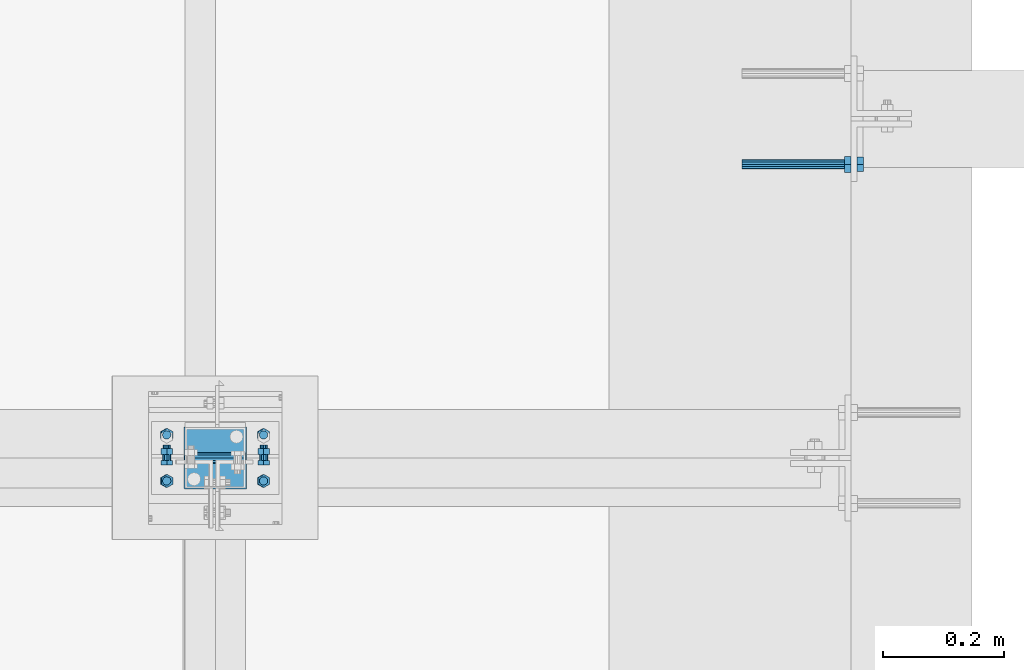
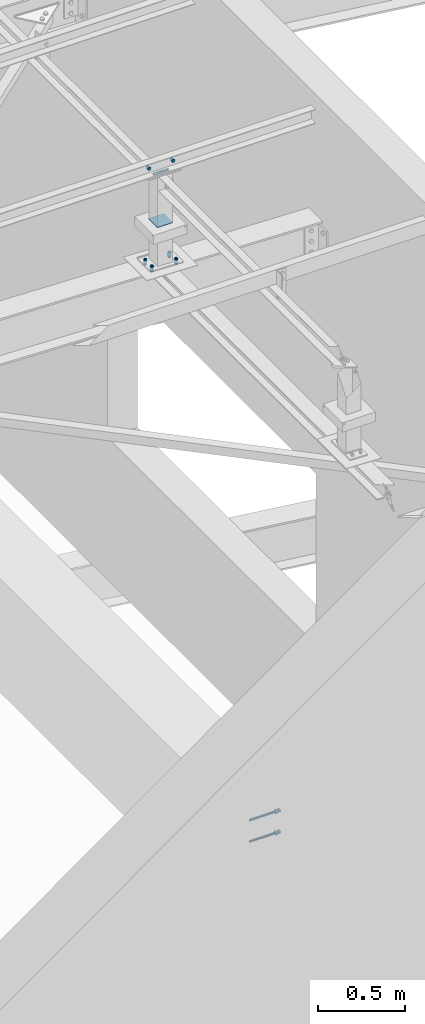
# One storey, part 268 of 3134: 6 mechanical fasteners, 5 elements without a shape of their own.
"""IFC2X3 building model written with IfcOpenShell, lengths in millimetres."""

from ifc_helpers import new_model, si_unit, frame, origin_with_axes, place, context, subcontext, project, spatial, faceted_brep, source, transform, mapped, material, type_object, element, aggregate, save


model = new_model("IFC2X3")

# Units and contexts
model_context = context("Model", 3, precision=1e-05, world=origin_with_axes())
body_context = subcontext(model_context, "Body", "Model", "MODEL_VIEW")
ifc_project = project(units=[si_unit("LENGTHUNIT", "METRE", prefix="MILLI"), si_unit("AREAUNIT", "SQUARE_METRE"), si_unit("VOLUMEUNIT", "CUBIC_METRE"), si_unit("MASSUNIT", "GRAM", prefix="KILO"), si_unit("TIMEUNIT", "SECOND"), si_unit("PLANEANGLEUNIT", "RADIAN"), si_unit("SOLIDANGLEUNIT", "STERADIAN"), si_unit("THERMODYNAMICTEMPERATUREUNIT", "DEGREE_CELSIUS"), si_unit("LUMINOUSINTENSITYUNIT", "LUMEN")], contexts=[model_context])

# Site, building, storey
site_placement = place(None, origin_with_axes())
site = spatial("IfcSite", under=ifc_project, at=site_placement, CompositionType="ELEMENT")
building_placement = place(site_placement, origin_with_axes())
building = spatial("IfcBuilding", under=site, at=building_placement, Name="Undefined", CompositionType="ELEMENT")
storey_placement = place(building_placement, origin_with_axes())
storey = spatial("IfcBuildingStorey", under=building, at=storey_placement, Name="Undefined", CompositionType="ELEMENT", Elevation=0.0)

# Assembly, mechanical fastener
assembly_1_placement = place(storey_placement, origin_with_axes())
assembly_1 = element("IfcElementAssembly", 1, at=assembly_1_placement, inside=storey, AssemblyPlace="NOTDEFINED", PredefinedType="RIGID_FRAME")
ifc_material_1 = material(Name="HILTI-HAS")
mechanical_fastener_type = type_object("IfcMechanicalFastenerType", Name="Bolt assembly")
shared_shape_1 = source(origin_with_axes(), body_context, "Body", "Brep", [
    faceted_brep([(13.856406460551, -20.56, 0.0), (6.92820323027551, -20.56, 12.0), (-6.92820323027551, -20.56, 12.0), (-13.856406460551, -20.56, 1.69692038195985e-15), (-6.92820323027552, -20.56, -12.0), (6.9282032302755, -20.56, -12.0), (6.9282032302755, -10.0, -12.0), (-6.92820323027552, -10.0, -12.0), (-13.856406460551, -10.0, 1.69692038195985e-15), (-6.92820323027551, -10.0, 12.0), (6.92820323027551, -10.0, 12.0), (13.856406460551, -10.0, 0.0), (8.0, -10.0, 0.0), (6.92820323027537, -10.0, 4.00000000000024), (3.99999999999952, -10.0, 6.92820323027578), (-8.29068785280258e-13, -10.0, 8.0), (-4.00000000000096, -10.0, 6.92820323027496), (-6.9282032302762, -10.0, 3.99999999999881), (-8.0, -10.0, -1.65813757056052e-12), (-6.92820323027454, -10.0, -4.00000000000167), (-3.99999999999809, -10.0, -6.92820323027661), (2.47832457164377e-12, -10.0, -8.0), (4.00000000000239, -10.0, -6.92820323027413), (6.92820323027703, -10.0, -3.99999999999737), (6.92820323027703, 180.0, -3.99999999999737), (4.00000000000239, 180.0, -6.92820323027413), (2.47832457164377e-12, 180.0, -8.0), (-3.99999999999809, 180.0, -6.92820323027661), (-6.92820323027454, 180.0, -4.00000000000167), (-8.0, 180.0, -1.65813757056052e-12), (-6.9282032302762, 180.0, 3.99999999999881), (-4.00000000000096, 180.0, 6.92820323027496), (-8.29068785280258e-13, 180.0, 8.0), (3.99999999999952, 180.0, 6.92820323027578), (6.92820323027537, 180.0, 4.00000000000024), (8.0, 180.0, 0.0), (15.3344231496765, 7.105427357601e-15, 0.0), (7.66721157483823, 7.105427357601e-15, 13.28), (-7.66721157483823, 7.105427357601e-15, 13.28), (-15.3344231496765, 7.105427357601e-15, 1.87792522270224e-15), (-7.66721157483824, 7.105427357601e-15, -13.28), (7.66721157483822, 7.105427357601e-15, -13.28), (7.66721157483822, 10.56, -13.28), (-7.66721157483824, 10.56, -13.28), (-15.3344231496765, 10.56, 1.87792522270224e-15), (-7.66721157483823, 10.56, 13.28), (7.66721157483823, 10.56, 13.28), (15.3344231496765, 10.56, 0.0)], [[[0, 1, 2, 3, 4, 5]], [[6, 7, 8, 9, 10, 11]], [[0, 11, 10, 1]], [[1, 10, 9, 2]], [[2, 9, 8, 3]], [[3, 8, 7, 4]], [[4, 7, 6, 5]], [[5, 6, 11, 0]], [[12, 13, 14, 15, 16, 17, 18, 19, 20, 21, 22, 23]], [[24, 25, 26, 27, 28, 29, 30, 31, 32, 33, 34, 35]], [[12, 35, 34, 13]], [[13, 34, 33, 14]], [[14, 33, 32, 15]], [[15, 32, 31, 16]], [[16, 31, 30, 17]], [[17, 30, 29, 18]], [[18, 29, 28, 19]], [[19, 28, 27, 20]], [[20, 27, 26, 21]], [[21, 26, 25, 22]], [[22, 25, 24, 23]], [[23, 24, 35, 12]], [[36, 37, 38, 39, 40, 41]], [[42, 43, 44, 45, 46, 47]], [[36, 47, 46, 37]], [[37, 46, 45, 38]], [[38, 45, 44, 39]], [[39, 44, 43, 40]], [[40, 43, 42, 41]], [[41, 42, 47, 36]]]),
    faceted_brep([(9.0, -10.0, 0.0), (7.79422863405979, -10.0, 4.50000000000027), (4.49999999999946, -10.0, 7.79422863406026), (-9.3270238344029e-13, -10.0, 9.0), (-4.50000000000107, -10.0, 7.79422863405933), (-7.79422863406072, -10.0, 4.49999999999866), (-9.0, -10.0, -1.86540476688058e-12), (-7.79422863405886, -10.0, -4.50000000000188), (-4.49999999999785, -10.0, -7.79422863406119), (2.78811514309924e-12, -10.0, -9.0), (4.50000000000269, -10.0, -7.7942286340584), (7.79422863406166, -10.0, -4.49999999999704), (7.79422863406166, 0.100000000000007, -4.49999999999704), (4.50000000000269, 0.100000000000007, -7.7942286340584), (2.78811514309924e-12, 0.100000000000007, -9.0), (-4.49999999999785, 0.100000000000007, -7.79422863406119), (-7.79422863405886, 0.100000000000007, -4.50000000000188), (-9.0, 0.100000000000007, -1.86540476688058e-12), (-7.79422863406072, 0.100000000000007, 4.49999999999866), (-4.50000000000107, 0.100000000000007, 7.79422863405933), (-9.3270238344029e-13, 0.100000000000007, 9.0), (4.49999999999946, 0.100000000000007, 7.79422863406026), (7.79422863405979, 0.100000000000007, 4.50000000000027), (9.0, 0.100000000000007, 0.0)], [[[0, 1, 2, 3, 4, 5, 6, 7, 8, 9, 10, 11]], [[12, 13, 14, 15, 16, 17, 18, 19, 20, 21, 22, 23]], [[0, 23, 22, 1]], [[1, 22, 21, 2]], [[2, 21, 20, 3]], [[3, 20, 19, 4]], [[4, 19, 18, 5]], [[5, 18, 17, 6]], [[6, 17, 16, 7]], [[7, 16, 15, 8]], [[8, 15, 14, 9]], [[9, 14, 13, 10]], [[10, 13, 12, 11]], [[11, 12, 23, 0]]]),
])
mechanical_fastener_1_placement = place(assembly_1_placement, frame((32724.9999999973, 53174.9999999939, 5696.01703557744), z_axis=(0.0, 1.0, 0.0), x_axis=(0.0, 0.0, -1.0)))
mechanical_fastener_1 = element("IfcMechanicalFastener", 2, at=mechanical_fastener_1_placement, type_object=mechanical_fastener_type, material=ifc_material_1, Name="Bolt assembly", NominalDiameter=16.0, NominalLength=190.0, context=body_context, shape_type="MappedRepresentation", body=[
    mapped(shared_shape_1, transform((0.0, 0.0, 0.0))),
    mapped(shared_shape_1, transform((150.0, 0.0, 0.0))),
])
aggregate(assembly_1, [mechanical_fastener_1])

assembly_2_placement = place(storey_placement, origin_with_axes())
assembly_2 = element("IfcElementAssembly", 3, at=assembly_2_placement, inside=storey, AssemblyPlace="NOTDEFINED", PredefinedType="RIGID_FRAME")
ifc_material_2 = material(Name="8.8")
shared_shape_2 = source(origin_with_axes(), body_context, "Body", "Brep", [
    faceted_brep([(7.0, 13.0000253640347, 0.0), (6.06217782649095, 13.0000253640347, 3.50000000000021), (3.49999999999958, 13.0000253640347, 6.06217782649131), (-7.25435187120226e-13, 13.0000253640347, 7.0), (-3.50000000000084, 13.0000253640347, 6.06217782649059), (-6.06217782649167, 13.0000253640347, 3.49999999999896), (-7.0, 13.0000253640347, -1.45087037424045e-12), (-6.06217782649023, 13.0000253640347, -3.50000000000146), (-3.49999999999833, 13.0000253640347, -6.06217782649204), (2.1685340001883e-12, 13.0000253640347, -7.0), (3.50000000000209, 13.0000253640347, -6.06217782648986), (6.0621778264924, 13.0000253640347, -3.4999999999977), (6.0621778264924, 15.0999999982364, -3.4999999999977), (3.50000000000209, 15.0999999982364, -6.06217782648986), (2.1685340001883e-12, 15.0999999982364, -7.0), (-3.49999999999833, 15.0999999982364, -6.06217782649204), (-6.06217782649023, 15.0999999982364, -3.50000000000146), (-7.0, 15.0999999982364, -1.45087037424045e-12), (-6.06217782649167, 15.0999999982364, 3.49999999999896), (-3.50000000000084, 15.0999999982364, 6.06217782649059), (-7.25435187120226e-13, 15.0999999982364, 7.0), (3.49999999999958, 15.0999999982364, 6.06217782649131), (6.06217782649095, 15.0999999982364, 3.50000000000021), (7.0, 15.0999999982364, 0.0)], [[[0, 1, 2, 3, 4, 5, 6, 7, 8, 9, 10, 11]], [[12, 13, 14, 15, 16, 17, 18, 19, 20, 21, 22, 23]], [[0, 23, 22, 1]], [[1, 22, 21, 2]], [[2, 21, 20, 3]], [[3, 20, 19, 4]], [[4, 19, 18, 5]], [[5, 18, 17, 6]], [[6, 17, 16, 7]], [[7, 16, 15, 8]], [[8, 15, 14, 9]], [[9, 14, 13, 10]], [[10, 13, 12, 11]], [[11, 12, 23, 0]]]),
])
mechanical_fastener_2_placement = place(assembly_2_placement, frame((31674.2851187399, 52728.0, 10204.1872055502), z_axis=(-0.99951962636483, 0.0, 0.0309922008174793), x_axis=(0.0, -1.0, 0.0)))
mechanical_fastener_2 = element("IfcMechanicalFastener", 4, at=mechanical_fastener_2_placement, type_object=mechanical_fastener_type, material=ifc_material_2, Name="Bolt assembly", NominalDiameter=12.0, NominalLength=2.0, context=body_context, shape_type="MappedRepresentation", body=[
    mapped(shared_shape_2, transform((0.0, -5.32963895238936e-10, -79.9999999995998))),
    mapped(shared_shape_2, transform((76.0, -5.32963895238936e-10, -79.9999999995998))),
    mapped(shared_shape_2, transform((0.0, 5.3114490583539e-10, 79.9999999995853))),
    mapped(shared_shape_2, transform((76.0, 5.3114490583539e-10, 79.9999999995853))),
])
aggregate(assembly_2, [mechanical_fastener_2])

# Assembly, mechanical fasteners
assembly_3_placement = place(storey_placement, origin_with_axes())
assembly_3 = element("IfcElementAssembly", 5, at=assembly_3_placement, inside=storey, AssemblyPlace="NOTDEFINED", PredefinedType="RIGID_FRAME")
shared_shape_3 = source(origin_with_axes(), body_context, "Body", "Brep", [
    faceted_brep([(9.0, -50.0, 0.0), (7.79422863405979, -50.0, 4.50000000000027), (4.49999999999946, -50.0, 7.79422863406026), (-9.3270238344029e-13, -50.0, 9.0), (-4.50000000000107, -50.0, 7.79422863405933), (-7.79422863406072, -50.0, 4.49999999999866), (-9.0, -50.0, -1.86540476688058e-12), (-7.79422863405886, -50.0, -4.50000000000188), (-4.49999999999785, -50.0, -7.79422863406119), (2.78811514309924e-12, -50.0, -9.0), (4.50000000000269, -50.0, -7.7942286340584), (7.79422863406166, -50.0, -4.49999999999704), (7.79422863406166, 50.1, -4.49999999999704), (4.50000000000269, 50.1, -7.7942286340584), (2.78811514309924e-12, 50.1, -9.0), (-4.49999999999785, 50.1, -7.79422863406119), (-7.79422863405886, 50.1, -4.50000000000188), (-9.0, 50.1, -1.86540476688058e-12), (-7.79422863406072, 50.1, 4.49999999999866), (-4.50000000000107, 50.1, 7.79422863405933), (-9.3270238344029e-13, 50.1, 9.0), (4.49999999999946, 50.1, 7.79422863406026), (7.79422863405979, 50.1, 4.50000000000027), (9.0, 50.1, 0.0)], [[[0, 1, 2, 3, 4, 5, 6, 7, 8, 9, 10, 11]], [[12, 13, 14, 15, 16, 17, 18, 19, 20, 21, 22, 23]], [[0, 23, 22, 1]], [[1, 22, 21, 2]], [[2, 21, 20, 3]], [[3, 20, 19, 4]], [[4, 19, 18, 5]], [[5, 18, 17, 6]], [[6, 17, 16, 7]], [[7, 16, 15, 8]], [[8, 15, 14, 9]], [[9, 14, 13, 10]], [[10, 13, 12, 11]], [[11, 12, 23, 0]]]),
])
mechanical_fastener_3_placement = place(assembly_3_placement, frame((31675.0, 52690.0, 10845.0), z_axis=(0.0, 1.0, 0.0), x_axis=(0.0, 0.0, 1.0)))
mechanical_fastener_3 = element("IfcMechanicalFastener", 6, at=mechanical_fastener_3_placement, type_object=mechanical_fastener_type, material=ifc_material_2, Name="Bolt assembly", NominalDiameter=16.0, NominalLength=100.0, context=body_context, shape_type="MappedRepresentation", body=[
    mapped(shared_shape_3, transform((0.0, 0.0, 0.0))),
])
ifc_material_3 = material(Name="6.8")
shared_shape_4 = source(origin_with_axes(), body_context, "Body", "Brep", [
    faceted_brep([(51.5, 1.36424205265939e-12, 50.0), (51.3858192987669, 1.36424205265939e-12, 50.5740251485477), (51.0606601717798, 1.36424205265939e-12, 51.0606601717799), (50.5740251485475, 1.36424205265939e-12, 51.385819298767), (-50.0000000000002, 1.36424205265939e-12, 51.5), (-50.7500000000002, 1.36424205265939e-12, 51.2990381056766), (-51.2990381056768, 1.36424205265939e-12, 50.7499999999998), (-51.5, 1.36424205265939e-12, 49.9999999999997), (-51.5, 1.36424205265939e-12, -50.0000000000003), (-51.2990381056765, 1.36424205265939e-12, -50.7500000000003), (-50.7499999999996, 1.36424205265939e-12, -51.2990381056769), (-49.9999999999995, 1.36424205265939e-12, -51.5), (50.0000000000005, 1.36424205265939e-12, -51.5), (50.7500000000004, 1.36424205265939e-12, -51.2990381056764), (51.2990381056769, 1.36424205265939e-12, -50.7499999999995), (51.5, 1.36424205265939e-12, -49.9999999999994), (51.5, 5.10000000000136, -49.9999999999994), (51.2990381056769, 5.10000000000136, -50.7499999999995), (50.7500000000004, 5.10000000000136, -51.2990381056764), (50.0000000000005, 5.10000000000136, -51.5), (-49.9999999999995, 5.10000000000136, -51.5), (-50.7499999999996, 5.10000000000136, -51.2990381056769), (-51.2990381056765, 5.10000000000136, -50.7500000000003), (-51.5, 5.10000000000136, -50.0000000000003), (-51.5, 5.10000000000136, 49.9999999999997), (-51.2990381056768, 5.10000000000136, 50.7499999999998), (-50.7500000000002, 5.10000000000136, 51.2990381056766), (-50.0000000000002, 5.10000000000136, 51.5), (50.5740251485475, 5.10000000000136, 51.385819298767), (51.0606601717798, 5.10000000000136, 51.0606601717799), (51.3858192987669, 5.10000000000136, 50.5740251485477), (51.5, 5.10000000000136, 50.0)], [[[0, 1, 2, 3, 4, 5, 6, 7, 8, 9, 10, 11, 12, 13, 14, 15]], [[16, 17, 18, 19, 20, 21, 22, 23, 24, 25, 26, 27, 28, 29, 30, 31]], [[0, 31, 30, 1]], [[1, 30, 29, 2]], [[2, 29, 28, 3]], [[3, 28, 27, 4]], [[4, 27, 26, 5]], [[5, 26, 25, 6]], [[6, 25, 24, 7]], [[7, 24, 23, 8]], [[8, 23, 22, 9]], [[9, 22, 21, 10]], [[10, 21, 20, 11]], [[11, 20, 19, 12]], [[12, 19, 18, 13]], [[13, 18, 17, 14]], [[14, 17, 16, 15]], [[15, 16, 31, 0]]]),
])
mechanical_fastener_4_placement = place(assembly_3_placement, frame((31675.0, 52690.0, 10503.87), z_axis=(0.0, -1.0, 0.0), x_axis=(-1.0, 0.0, 0.0)))
mechanical_fastener_4 = element("IfcMechanicalFastener", 7, at=mechanical_fastener_4_placement, type_object=mechanical_fastener_type, material=ifc_material_3, Name="Bolt assembly", NominalDiameter=10.0, NominalLength=5.0, context=body_context, shape_type="MappedRepresentation", body=[
    mapped(shared_shape_4, transform((0.0, 0.0, 0.0))),
])
aggregate(assembly_3, [mechanical_fastener_3, mechanical_fastener_4])

# Assembly, mechanical fastener
assembly_4_placement = place(storey_placement, origin_with_axes())
assembly_4 = element("IfcElementAssembly", 8, at=assembly_4_placement, inside=storey, AssemblyPlace="NOTDEFINED", PredefinedType="RIGID_FRAME")
shared_shape_5 = source(origin_with_axes(), body_context, "Body", "Brep", [
    faceted_brep([(10.9696551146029, -12.0, 0.0), (5.48482755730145, -12.0, 9.5), (-5.48482755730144, -12.0, 9.5), (-10.9696551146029, -12.0, 1.34339530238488e-15), (-5.48482755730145, -12.0, -9.5), (5.48482755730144, -12.0, -9.50000000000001), (5.48482755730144, -4.0, -9.50000000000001), (-5.48482755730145, -4.0, -9.5), (-10.9696551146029, -4.0, 1.34339530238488e-15), (-5.48482755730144, -4.0, 9.5), (5.48482755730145, -4.0, 9.5), (10.9696551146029, -4.0, 0.0), (6.0, -4.0, 0.0), (5.19615242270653, -4.0, 3.00000000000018), (2.99999999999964, -4.0, 5.19615242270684), (-6.21801588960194e-13, -4.0, 6.0), (-3.00000000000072, -4.0, 5.19615242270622), (-5.19615242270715, -4.0, 2.9999999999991), (-6.0, -4.0, -1.24360317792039e-12), (-5.19615242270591, -4.0, -3.00000000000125), (-2.99999999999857, -4.0, -5.19615242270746), (1.85874342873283e-12, -4.0, -6.0), (3.00000000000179, -4.0, -5.1961524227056), (5.19615242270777, -4.0, -2.99999999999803), (5.19615242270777, 21.0, -2.99999999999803), (3.00000000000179, 21.0, -5.1961524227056), (1.85874342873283e-12, 21.0, -6.0), (-2.99999999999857, 21.0, -5.19615242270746), (-5.19615242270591, 21.0, -3.00000000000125), (-6.0, 21.0, -1.24360317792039e-12), (-5.19615242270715, 21.0, 2.9999999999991), (-3.00000000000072, 21.0, 5.19615242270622), (-6.21801588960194e-13, 21.0, 6.0), (2.99999999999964, 21.0, 5.19615242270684), (5.19615242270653, 21.0, 3.00000000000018), (6.0, 21.0, 0.0), (10.9696551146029, 6.00000000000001, 0.0), (5.48482755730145, 6.00000000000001, 9.5), (-5.48482755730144, 6.00000000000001, 9.5), (-10.9696551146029, 6.00000000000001, 1.34339530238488e-15), (-5.48482755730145, 6.00000000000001, -9.5), (5.48482755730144, 6.00000000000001, -9.50000000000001), (5.48482755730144, 16.0, -9.50000000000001), (-5.48482755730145, 16.0, -9.5), (-10.9696551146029, 16.0, 1.34339530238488e-15), (-5.48482755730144, 16.0, 9.5), (5.48482755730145, 16.0, 9.5), (10.9696551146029, 16.0, 0.0)], [[[0, 1, 2, 3, 4, 5]], [[6, 7, 8, 9, 10, 11]], [[0, 11, 10, 1]], [[1, 10, 9, 2]], [[2, 9, 8, 3]], [[3, 8, 7, 4]], [[4, 7, 6, 5]], [[5, 6, 11, 0]], [[12, 13, 14, 15, 16, 17, 18, 19, 20, 21, 22, 23]], [[24, 25, 26, 27, 28, 29, 30, 31, 32, 33, 34, 35]], [[12, 35, 34, 13]], [[13, 34, 33, 14]], [[14, 33, 32, 15]], [[15, 32, 31, 16]], [[16, 31, 30, 17]], [[17, 30, 29, 18]], [[18, 29, 28, 19]], [[19, 28, 27, 20]], [[20, 27, 26, 21]], [[21, 26, 25, 22]], [[22, 25, 24, 23]], [[23, 24, 35, 12]], [[36, 37, 38, 39, 40, 41]], [[42, 43, 44, 45, 46, 47]], [[36, 47, 46, 37]], [[37, 46, 45, 38]], [[38, 45, 44, 39]], [[39, 44, 43, 40]], [[40, 43, 42, 41]], [[41, 42, 47, 36]]]),
    faceted_brep([(7.0, -3.9, 0.0), (6.06217782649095, -3.9, 3.50000000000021), (3.49999999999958, -3.9, 6.06217782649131), (-7.25435187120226e-13, -3.9, 7.0), (-3.50000000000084, -3.9, 6.06217782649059), (-6.06217782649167, -3.9, 3.49999999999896), (-7.0, -3.9, -1.45087037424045e-12), (-6.06217782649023, -3.9, -3.50000000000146), (-3.49999999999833, -3.9, -6.06217782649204), (2.1685340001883e-12, -3.9, -7.0), (3.50000000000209, -3.9, -6.06217782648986), (6.0621778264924, -3.9, -3.4999999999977), (6.0621778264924, 0.0999999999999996, -3.4999999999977), (3.50000000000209, 0.0999999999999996, -6.06217782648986), (2.1685340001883e-12, 0.0999999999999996, -7.0), (-3.49999999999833, 0.0999999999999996, -6.06217782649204), (-6.06217782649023, 0.0999999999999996, -3.50000000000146), (-7.0, 0.0999999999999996, -1.45087037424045e-12), (-6.06217782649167, 0.0999999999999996, 3.49999999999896), (-3.50000000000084, 0.0999999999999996, 6.06217782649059), (-7.25435187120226e-13, 0.0999999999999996, 7.0), (3.49999999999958, 0.0999999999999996, 6.06217782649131), (6.06217782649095, 0.0999999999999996, 3.50000000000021), (7.0, 0.0999999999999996, 0.0), (7.0, -0.1, 0.0), (6.06217782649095, -0.1, 3.50000000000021), (3.49999999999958, -0.1, 6.06217782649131), (-7.25435187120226e-13, -0.1, 7.0), (-3.50000000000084, -0.1, 6.06217782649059), (-6.06217782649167, -0.1, 3.49999999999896), (-7.0, -0.1, -1.45087037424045e-12), (-6.06217782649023, -0.1, -3.50000000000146), (-3.49999999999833, -0.1, -6.06217782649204), (2.1685340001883e-12, -0.1, -7.0), (3.50000000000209, -0.1, -6.06217782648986), (6.0621778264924, -0.1, -3.4999999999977), (6.0621778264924, 6.00000000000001, -3.4999999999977), (3.50000000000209, 6.00000000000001, -6.06217782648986), (2.1685340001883e-12, 6.00000000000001, -7.0), (-3.49999999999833, 6.00000000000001, -6.06217782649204), (-6.06217782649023, 6.00000000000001, -3.50000000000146), (-7.0, 6.00000000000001, -1.45087037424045e-12), (-6.06217782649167, 6.00000000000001, 3.49999999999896), (-3.50000000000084, 6.00000000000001, 6.06217782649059), (-7.25435187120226e-13, 6.00000000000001, 7.0), (3.49999999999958, 6.00000000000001, 6.06217782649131), (6.06217782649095, 6.00000000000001, 3.50000000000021), (7.0, 6.00000000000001, 0.0)], [[[0, 1, 2, 3, 4, 5, 6, 7, 8, 9, 10, 11]], [[12, 13, 14, 15, 16, 17, 18, 19, 20, 21, 22, 23]], [[0, 23, 22, 1]], [[1, 22, 21, 2]], [[2, 21, 20, 3]], [[3, 20, 19, 4]], [[4, 19, 18, 5]], [[5, 18, 17, 6]], [[6, 17, 16, 7]], [[7, 16, 15, 8]], [[8, 15, 14, 9]], [[9, 14, 13, 10]], [[10, 13, 12, 11]], [[11, 12, 23, 0]], [[24, 25, 26, 27, 28, 29, 30, 31, 32, 33, 34, 35]], [[36, 37, 38, 39, 40, 41, 42, 43, 44, 45, 46, 47]], [[24, 47, 46, 25]], [[25, 46, 45, 26]], [[26, 45, 44, 27]], [[27, 44, 43, 28]], [[28, 43, 42, 29]], [[29, 42, 41, 30]], [[30, 41, 40, 31]], [[31, 40, 39, 32]], [[32, 39, 38, 33]], [[33, 38, 37, 34]], [[34, 37, 36, 35]], [[35, 36, 47, 24]]]),
])
mechanical_fastener_5_placement = place(assembly_4_placement, frame((31675.0, 52690.0, 10900.0), z_axis=(1.0, 0.0, 0.0), x_axis=(0.0, 0.0, -1.0)))
mechanical_fastener_5 = element("IfcMechanicalFastener", 9, at=mechanical_fastener_5_placement, type_object=mechanical_fastener_type, material=ifc_material_2, Name="Bolt assembly", NominalDiameter=12.0, NominalLength=25.0, context=body_context, shape_type="MappedRepresentation", body=[
    mapped(shared_shape_5, transform((0.0, -5.32963895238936e-10, -79.9999999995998))),
    mapped(shared_shape_5, transform((0.0, 5.3114490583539e-10, 79.9999999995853))),
])
aggregate(assembly_4, [mechanical_fastener_5])

assembly_5_placement = place(storey_placement, origin_with_axes())
assembly_5 = element("IfcElementAssembly", 10, at=assembly_5_placement, inside=storey, Name="IPE330", AssemblyPlace="NOTDEFINED", PredefinedType="RIGID_FRAME")
shared_shape_6 = source(origin_with_axes(), body_context, "Body", "Brep", [
    faceted_brep([(10.9696551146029, -6.48557985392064, 0.0), (5.48482755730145, -6.48557985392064, 9.5), (-5.48482755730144, -6.48557985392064, 9.5), (-10.9696551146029, -6.48557985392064, 1.34339530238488e-15), (-5.48482755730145, -6.48557985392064, -9.5), (5.48482755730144, -6.48557985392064, -9.50000000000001), (5.48482755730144, 1.51442014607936, -9.50000000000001), (-5.48482755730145, 1.51442014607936, -9.5), (-10.9696551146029, 1.51442014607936, 1.34339530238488e-15), (-5.48482755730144, 1.51442014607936, 9.5), (5.48482755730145, 1.51442014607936, 9.5), (10.9696551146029, 1.51442014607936, 0.0), (6.0, 1.51442014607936, 0.0), (5.19615242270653, 1.51442014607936, 3.00000000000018), (2.99999999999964, 1.51442014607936, 5.19615242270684), (-6.21801588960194e-13, 1.51442014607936, 6.0), (-3.00000000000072, 1.51442014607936, 5.19615242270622), (-5.19615242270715, 1.51442014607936, 2.9999999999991), (-6.0, 1.51442014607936, -1.24360317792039e-12), (-5.19615242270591, 1.51442014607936, -3.00000000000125), (-2.99999999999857, 1.51442014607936, -5.19615242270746), (1.85874342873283e-12, 1.51442014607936, -6.0), (3.00000000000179, 1.51442014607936, -5.1961524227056), (5.19615242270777, 1.51442014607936, -2.99999999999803), (5.19615242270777, 36.5144201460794, -2.99999999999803), (3.00000000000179, 36.5144201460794, -5.1961524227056), (1.85874342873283e-12, 36.5144201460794, -6.0), (-2.99999999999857, 36.5144201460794, -5.19615242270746), (-5.19615242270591, 36.5144201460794, -3.00000000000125), (-6.0, 36.5144201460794, -1.24360317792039e-12), (-5.19615242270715, 36.5144201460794, 2.9999999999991), (-3.00000000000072, 36.5144201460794, 5.19615242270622), (-6.21801588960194e-13, 36.5144201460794, 6.0), (2.99999999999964, 36.5144201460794, 5.19615242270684), (5.19615242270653, 36.5144201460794, 3.00000000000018), (6.0, 36.5144201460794, 0.0), (10.9696551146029, 23.0139082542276, 0.0), (5.48482755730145, 23.0139082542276, 9.5), (-5.48482755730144, 23.0139082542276, 9.5), (-10.9696551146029, 23.0139082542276, 1.34339530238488e-15), (-5.48482755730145, 23.0139082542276, -9.5), (5.48482755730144, 23.0139082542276, -9.50000000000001), (5.48482755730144, 33.0139082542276, -9.50000000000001), (-5.48482755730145, 33.0139082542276, -9.5), (-10.9696551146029, 33.0139082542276, 1.34339530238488e-15), (-5.48482755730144, 33.0139082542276, 9.5), (5.48482755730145, 33.0139082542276, 9.5), (10.9696551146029, 33.0139082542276, 0.0)], [[[0, 1, 2, 3, 4, 5]], [[6, 7, 8, 9, 10, 11]], [[0, 11, 10, 1]], [[1, 10, 9, 2]], [[2, 9, 8, 3]], [[3, 8, 7, 4]], [[4, 7, 6, 5]], [[5, 6, 11, 0]], [[12, 13, 14, 15, 16, 17, 18, 19, 20, 21, 22, 23]], [[24, 25, 26, 27, 28, 29, 30, 31, 32, 33, 34, 35]], [[12, 35, 34, 13]], [[13, 34, 33, 14]], [[14, 33, 32, 15]], [[15, 32, 31, 16]], [[16, 31, 30, 17]], [[17, 30, 29, 18]], [[18, 29, 28, 19]], [[19, 28, 27, 20]], [[20, 27, 26, 21]], [[21, 26, 25, 22]], [[22, 25, 24, 23]], [[23, 24, 35, 12]], [[36, 37, 38, 39, 40, 41]], [[42, 43, 44, 45, 46, 47]], [[36, 47, 46, 37]], [[37, 46, 45, 38]], [[38, 45, 44, 39]], [[39, 44, 43, 40]], [[40, 43, 42, 41]], [[41, 42, 47, 36]]]),
    faceted_brep([(7.0, 14.9139082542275, 0.0), (6.06217782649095, 14.9139082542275, 3.50000000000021), (3.49999999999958, 14.9139082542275, 6.06217782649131), (-7.25435187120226e-13, 14.9139082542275, 7.0), (-3.50000000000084, 14.9139082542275, 6.06217782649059), (-6.06217782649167, 14.9139082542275, 3.49999999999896), (-7.0, 14.9139082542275, -1.45087037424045e-12), (-6.06217782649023, 14.9139082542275, -3.50000000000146), (-3.49999999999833, 14.9139082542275, -6.06217782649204), (2.1685340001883e-12, 14.9139082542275, -7.0), (3.50000000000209, 14.9139082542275, -6.06217782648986), (6.0621778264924, 14.9139082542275, -3.4999999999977), (6.0621778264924, 23.0139082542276, -3.4999999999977), (3.50000000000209, 23.0139082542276, -6.06217782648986), (2.1685340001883e-12, 23.0139082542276, -7.0), (-3.49999999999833, 23.0139082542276, -6.06217782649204), (-6.06217782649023, 23.0139082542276, -3.50000000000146), (-7.0, 23.0139082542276, -1.45087037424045e-12), (-6.06217782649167, 23.0139082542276, 3.49999999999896), (-3.50000000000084, 23.0139082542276, 6.06217782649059), (-7.25435187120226e-13, 23.0139082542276, 7.0), (3.49999999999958, 23.0139082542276, 6.06217782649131), (6.06217782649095, 23.0139082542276, 3.50000000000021), (7.0, 23.0139082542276, 0.0), (7.0, 1.61442014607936, 0.0), (6.06217782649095, 1.61442014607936, 3.50000000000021), (3.49999999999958, 1.61442014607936, 6.06217782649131), (-7.25435187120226e-13, 1.61442014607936, 7.0), (-3.50000000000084, 1.61442014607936, 6.06217782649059), (-6.06217782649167, 1.61442014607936, 3.49999999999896), (-7.0, 1.61442014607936, -1.45087037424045e-12), (-6.06217782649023, 1.61442014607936, -3.50000000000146), (-3.49999999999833, 1.61442014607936, -6.06217782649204), (2.1685340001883e-12, 1.61442014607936, -7.0), (3.50000000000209, 1.61442014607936, -6.06217782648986), (6.0621778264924, 1.61442014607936, -3.4999999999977), (6.0621778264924, 13.1144201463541, -3.4999999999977), (3.50000000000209, 13.1144201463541, -6.06217782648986), (2.1685340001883e-12, 13.1144201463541, -7.0), (-3.49999999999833, 13.1144201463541, -6.06217782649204), (-6.06217782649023, 13.1144201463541, -3.50000000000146), (-7.0, 13.1144201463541, -1.45087037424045e-12), (-6.06217782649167, 13.1144201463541, 3.49999999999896), (-3.50000000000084, 13.1144201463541, 6.06217782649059), (-7.25435187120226e-13, 13.1144201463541, 7.0), (3.49999999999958, 13.1144201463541, 6.06217782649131), (6.06217782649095, 13.1144201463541, 3.50000000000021), (7.0, 13.1144201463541, 0.0)], [[[0, 1, 2, 3, 4, 5, 6, 7, 8, 9, 10, 11]], [[12, 13, 14, 15, 16, 17, 18, 19, 20, 21, 22, 23]], [[0, 23, 22, 1]], [[1, 22, 21, 2]], [[2, 21, 20, 3]], [[3, 20, 19, 4]], [[4, 19, 18, 5]], [[5, 18, 17, 6]], [[6, 17, 16, 7]], [[7, 16, 15, 8]], [[8, 15, 14, 9]], [[9, 14, 13, 10]], [[10, 13, 12, 11]], [[11, 12, 23, 0]], [[24, 25, 26, 27, 28, 29, 30, 31, 32, 33, 34, 35]], [[36, 37, 38, 39, 40, 41, 42, 43, 44, 45, 46, 47]], [[24, 47, 46, 25]], [[25, 46, 45, 26]], [[26, 45, 44, 27]], [[27, 44, 43, 28]], [[28, 43, 42, 29]], [[29, 42, 41, 30]], [[30, 41, 40, 31]], [[31, 40, 39, 32]], [[32, 39, 38, 33]], [[33, 38, 37, 34]], [[34, 37, 36, 35]], [[35, 36, 47, 24]]]),
])
mechanical_fastener_6_placement = place(assembly_5_placement, frame((31674.2851187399, 52728.0, 10204.1872055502), z_axis=(-0.99951962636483, 0.0, 0.0309922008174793), x_axis=(0.0, -1.0, 0.0)))
mechanical_fastener_6 = element("IfcMechanicalFastener", 11, at=mechanical_fastener_6_placement, type_object=mechanical_fastener_type, material=ifc_material_2, Name="Bolt assembly", NominalDiameter=12.0, NominalLength=35.0, context=body_context, shape_type="MappedRepresentation", body=[
    mapped(shared_shape_6, transform((0.0, -5.32963895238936e-10, -79.9999999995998))),
    mapped(shared_shape_6, transform((76.0, -5.32963895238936e-10, -79.9999999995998))),
    mapped(shared_shape_6, transform((0.0, 5.3114490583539e-10, 79.9999999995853))),
    mapped(shared_shape_6, transform((76.0, 5.3114490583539e-10, 79.9999999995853))),
])
aggregate(assembly_5, [mechanical_fastener_6])

save(model, "model.ifc")
